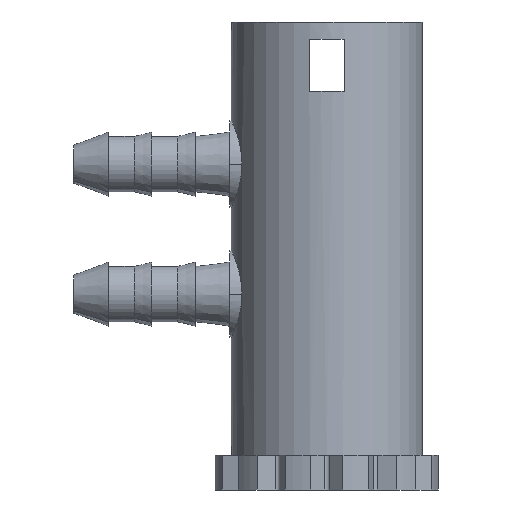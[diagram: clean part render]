
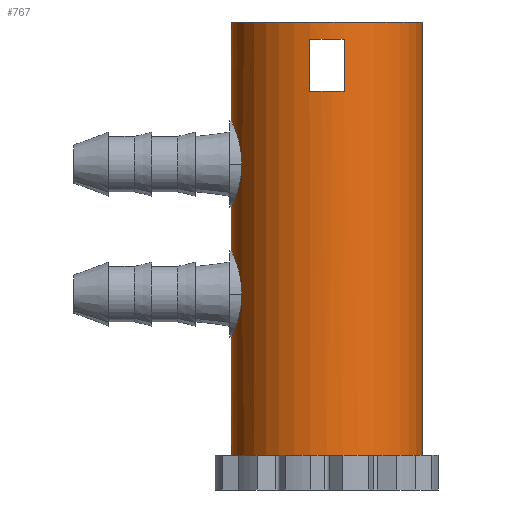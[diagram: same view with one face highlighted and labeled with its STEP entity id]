
A CAD part, front view. The second image highlights one B-rep face of the part: STEP entity #767.
In plain terms, the highlighted cylindrical face has radius 5.5 mm (diameter 11 mm), a partial arc.
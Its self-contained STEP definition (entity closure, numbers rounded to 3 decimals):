
#653=AXIS2_PLACEMENT_3D('Cylinder Axis2P3D',#650,#651,#652) ;
#657=AXIS2_PLACEMENT_3D('Circle Axis2P3D',#655,#656,$) ;
#673=AXIS2_PLACEMENT_3D('Circle Axis2P3D',#671,#672,$) ;
#735=AXIS2_PLACEMENT_3D('Circle Axis2P3D',#733,#734,$) ;
#751=AXIS2_PLACEMENT_3D('Circle Axis2P3D',#749,#750,$) ;
#514=CARTESIAN_POINT('Vertex',(-4.899,-2.5,11.3)) ;
#518=CARTESIAN_POINT('Control Point',(-4.899,-2.5,11.3)) ;
#519=CARTESIAN_POINT('Control Point',(-4.899,-2.5,11.795)) ;
#520=CARTESIAN_POINT('Control Point',(-4.961,-2.378,12.289)) ;
#521=CARTESIAN_POINT('Control Point',(-5.084,-2.137,12.728)) ;
#522=CARTESIAN_POINT('Control Point',(-5.289,-1.606,13.317)) ;
#523=CARTESIAN_POINT('Control Point',(-5.438,-0.894,13.663)) ;
#524=CARTESIAN_POINT('Control Point',(-5.479,-0.604,13.754)) ;
#525=CARTESIAN_POINT('Control Point',(-5.5,-0.302,13.8)) ;
#526=CARTESIAN_POINT('Control Point',(-5.5,0.,13.8)) ;
#527=CARTESIAN_POINT('Vertex',(-5.5,0.,13.8)) ;
#559=CARTESIAN_POINT('Vertex',(-5.5,0.,8.8)) ;
#563=CARTESIAN_POINT('Control Point',(-4.899,-2.5,11.3)) ;
#564=CARTESIAN_POINT('Control Point',(-4.899,-2.5,10.805)) ;
#565=CARTESIAN_POINT('Control Point',(-4.961,-2.378,10.311)) ;
#566=CARTESIAN_POINT('Control Point',(-5.084,-2.137,9.872)) ;
#567=CARTESIAN_POINT('Control Point',(-5.289,-1.606,9.283)) ;
#568=CARTESIAN_POINT('Control Point',(-5.438,-0.894,8.937)) ;
#569=CARTESIAN_POINT('Control Point',(-5.479,-0.604,8.846)) ;
#570=CARTESIAN_POINT('Control Point',(-5.5,-0.302,8.8)) ;
#571=CARTESIAN_POINT('Control Point',(-5.5,0.,8.8)) ;
#650=CARTESIAN_POINT('Axis2P3D Location',(0.,0.,13.)) ;
#655=CARTESIAN_POINT('Axis2P3D Location',(0.,0.,2.)) ;
#659=CARTESIAN_POINT('Vertex',(5.5,0.,2.)) ;
#661=CARTESIAN_POINT('Vertex',(-5.5,0.,2.)) ;
#664=CARTESIAN_POINT('Line Origine',(5.5,0.,16.75)) ;
#668=CARTESIAN_POINT('Vertex',(5.5,0.,27.)) ;
#671=CARTESIAN_POINT('Axis2P3D Location',(0.,0.,27.)) ;
#675=CARTESIAN_POINT('Vertex',(-5.5,0.,27.)) ;
#678=CARTESIAN_POINT('Line Origine',(-5.5,0.,16.75)) ;
#682=CARTESIAN_POINT('Vertex',(-5.5,0.,21.3)) ;
#686=CARTESIAN_POINT('Control Point',(-4.899,-2.5,18.8)) ;
#687=CARTESIAN_POINT('Control Point',(-4.899,-2.5,19.295)) ;
#688=CARTESIAN_POINT('Control Point',(-4.961,-2.378,19.789)) ;
#689=CARTESIAN_POINT('Control Point',(-5.084,-2.137,20.228)) ;
#690=CARTESIAN_POINT('Control Point',(-5.289,-1.606,20.817)) ;
#691=CARTESIAN_POINT('Control Point',(-5.438,-0.894,21.163)) ;
#692=CARTESIAN_POINT('Control Point',(-5.479,-0.604,21.254)) ;
#693=CARTESIAN_POINT('Control Point',(-5.5,-0.302,21.3)) ;
#694=CARTESIAN_POINT('Control Point',(-5.5,0.,21.3)) ;
#695=CARTESIAN_POINT('Vertex',(-4.899,-2.5,18.8)) ;
#699=CARTESIAN_POINT('Control Point',(-4.899,-2.5,18.8)) ;
#700=CARTESIAN_POINT('Control Point',(-4.899,-2.5,18.305)) ;
#701=CARTESIAN_POINT('Control Point',(-4.961,-2.378,17.811)) ;
#702=CARTESIAN_POINT('Control Point',(-5.084,-2.137,17.372)) ;
#703=CARTESIAN_POINT('Control Point',(-5.289,-1.606,16.783)) ;
#704=CARTESIAN_POINT('Control Point',(-5.438,-0.894,16.437)) ;
#705=CARTESIAN_POINT('Control Point',(-5.479,-0.604,16.346)) ;
#706=CARTESIAN_POINT('Control Point',(-5.5,-0.302,16.3)) ;
#707=CARTESIAN_POINT('Control Point',(-5.5,0.,16.3)) ;
#708=CARTESIAN_POINT('Vertex',(-5.5,0.,16.3)) ;
#711=CARTESIAN_POINT('Line Origine',(-5.5,0.,16.75)) ;
#716=CARTESIAN_POINT('Line Origine',(-5.5,0.,16.75)) ;
#733=CARTESIAN_POINT('Axis2P3D Location',(0.,0.,26.)) ;
#737=CARTESIAN_POINT('Vertex',(-1.,-5.408,26.)) ;
#739=CARTESIAN_POINT('Vertex',(1.,-5.408,26.)) ;
#742=CARTESIAN_POINT('Line Origine',(1.,-5.408,16.75)) ;
#746=CARTESIAN_POINT('Vertex',(1.,-5.408,23.)) ;
#749=CARTESIAN_POINT('Axis2P3D Location',(0.,0.,23.)) ;
#753=CARTESIAN_POINT('Vertex',(-1.,-5.408,23.)) ;
#756=CARTESIAN_POINT('Line Origine',(-1.,-5.408,16.75)) ;
#651=DIRECTION('Axis2P3D Direction',(0.,0.,1.)) ;
#652=DIRECTION('Axis2P3D XDirection',(1.,0.,0.)) ;
#656=DIRECTION('Axis2P3D Direction',(0.,0.,1.)) ;
#665=DIRECTION('Vector Direction',(0.,0.,1.)) ;
#672=DIRECTION('Axis2P3D Direction',(0.,0.,1.)) ;
#679=DIRECTION('Vector Direction',(0.,0.,1.)) ;
#712=DIRECTION('Vector Direction',(0.,0.,1.)) ;
#717=DIRECTION('Vector Direction',(0.,0.,1.)) ;
#734=DIRECTION('Axis2P3D Direction',(0.,0.,1.)) ;
#743=DIRECTION('Vector Direction',(0.,0.,1.)) ;
#750=DIRECTION('Axis2P3D Direction',(0.,0.,1.)) ;
#757=DIRECTION('Vector Direction',(0.,0.,1.)) ;
#666=VECTOR('Line Direction',#665,1.) ;
#680=VECTOR('Line Direction',#679,1.) ;
#713=VECTOR('Line Direction',#712,1.) ;
#718=VECTOR('Line Direction',#717,1.) ;
#744=VECTOR('Line Direction',#743,1.) ;
#758=VECTOR('Line Direction',#757,1.) ;
#722=ORIENTED_EDGE('',*,*,#663,.F.) ;
#723=ORIENTED_EDGE('',*,*,#670,.T.) ;
#724=ORIENTED_EDGE('',*,*,#677,.T.) ;
#725=ORIENTED_EDGE('',*,*,#684,.F.) ;
#726=ORIENTED_EDGE('',*,*,#697,.F.) ;
#727=ORIENTED_EDGE('',*,*,#710,.T.) ;
#728=ORIENTED_EDGE('',*,*,#715,.F.) ;
#729=ORIENTED_EDGE('',*,*,#529,.F.) ;
#730=ORIENTED_EDGE('',*,*,#572,.T.) ;
#731=ORIENTED_EDGE('',*,*,#720,.F.) ;
#762=ORIENTED_EDGE('',*,*,#741,.T.) ;
#763=ORIENTED_EDGE('',*,*,#748,.T.) ;
#764=ORIENTED_EDGE('',*,*,#755,.F.) ;
#765=ORIENTED_EDGE('',*,*,#760,.T.) ;
#766=FACE_BOUND('',#761,.T.) ;
#767=ADVANCED_FACE('\X2\96F64EF651E04F554F53\X0\',(#732,#766),#654,.T.) ;
#517=B_SPLINE_CURVE_WITH_KNOTS('',5,(#518,#519,#520,#521,#522,#523,#524,#525,#526),.UNSPECIFIED.,.F.,.U.,(6,3,6),(0.,3.498,5.633),.UNSPECIFIED.) ;
#562=B_SPLINE_CURVE_WITH_KNOTS('',5,(#563,#564,#565,#566,#567,#568,#569,#570,#571),.UNSPECIFIED.,.F.,.U.,(6,3,6),(0.,3.498,5.633),.UNSPECIFIED.) ;
#685=B_SPLINE_CURVE_WITH_KNOTS('',5,(#686,#687,#688,#689,#690,#691,#692,#693,#694),.UNSPECIFIED.,.F.,.U.,(6,3,6),(0.,3.498,5.633),.UNSPECIFIED.) ;
#698=B_SPLINE_CURVE_WITH_KNOTS('',5,(#699,#700,#701,#702,#703,#704,#705,#706,#707),.UNSPECIFIED.,.F.,.U.,(6,3,6),(0.,3.498,5.633),.UNSPECIFIED.) ;
#658=CIRCLE('generated circle',#657,5.5) ;
#674=CIRCLE('generated circle',#673,5.5) ;
#736=CIRCLE('generated circle',#735,5.5) ;
#752=CIRCLE('generated circle',#751,5.5) ;
#654=CYLINDRICAL_SURFACE('generated cylinder',#653,5.5) ;
#529=EDGE_CURVE('',#515,#528,#517,.T.) ;
#572=EDGE_CURVE('',#515,#560,#562,.T.) ;
#663=EDGE_CURVE('',#660,#662,#658,.F.) ;
#670=EDGE_CURVE('',#660,#669,#667,.T.) ;
#677=EDGE_CURVE('',#669,#676,#674,.F.) ;
#684=EDGE_CURVE('',#683,#676,#681,.T.) ;
#697=EDGE_CURVE('',#696,#683,#685,.T.) ;
#710=EDGE_CURVE('',#696,#709,#698,.T.) ;
#715=EDGE_CURVE('',#528,#709,#714,.T.) ;
#720=EDGE_CURVE('',#662,#560,#719,.T.) ;
#741=EDGE_CURVE('',#738,#740,#736,.T.) ;
#748=EDGE_CURVE('',#740,#747,#745,.F.) ;
#755=EDGE_CURVE('',#754,#747,#752,.T.) ;
#760=EDGE_CURVE('',#754,#738,#759,.T.) ;
#721=EDGE_LOOP('',(#722,#723,#724,#725,#726,#727,#728,#729,#730,#731)) ;
#761=EDGE_LOOP('',(#762,#763,#764,#765)) ;
#732=FACE_OUTER_BOUND('',#721,.T.) ;
#667=LINE('Line',#664,#666) ;
#681=LINE('Line',#678,#680) ;
#714=LINE('Line',#711,#713) ;
#719=LINE('Line',#716,#718) ;
#745=LINE('Line',#742,#744) ;
#759=LINE('Line',#756,#758) ;
#515=VERTEX_POINT('',#514) ;
#528=VERTEX_POINT('',#527) ;
#560=VERTEX_POINT('',#559) ;
#660=VERTEX_POINT('',#659) ;
#662=VERTEX_POINT('',#661) ;
#669=VERTEX_POINT('',#668) ;
#676=VERTEX_POINT('',#675) ;
#683=VERTEX_POINT('',#682) ;
#696=VERTEX_POINT('',#695) ;
#709=VERTEX_POINT('',#708) ;
#738=VERTEX_POINT('',#737) ;
#740=VERTEX_POINT('',#739) ;
#747=VERTEX_POINT('',#746) ;
#754=VERTEX_POINT('',#753) ;
